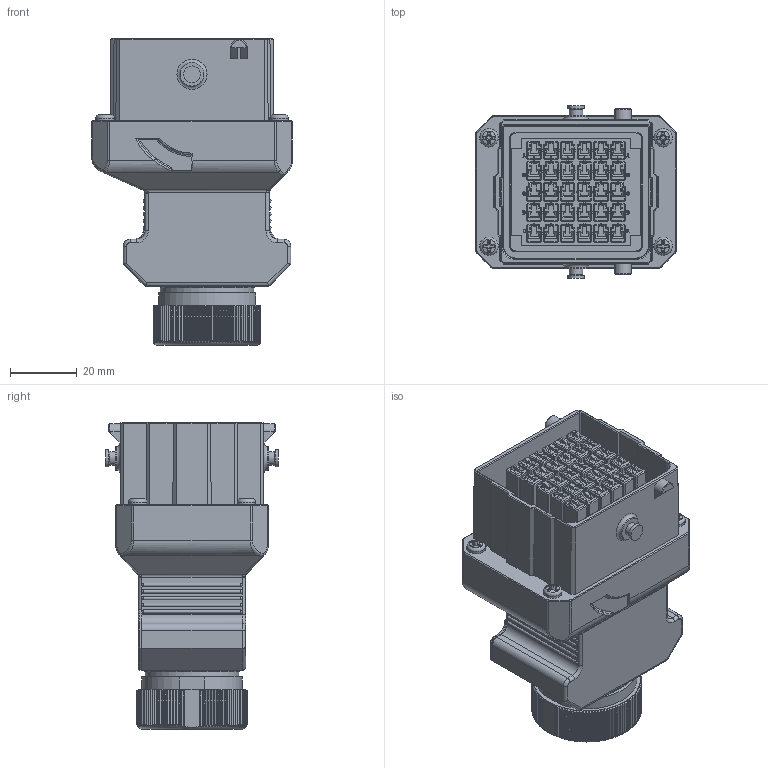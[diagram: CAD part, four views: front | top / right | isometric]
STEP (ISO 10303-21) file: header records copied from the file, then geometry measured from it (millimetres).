
FILE_DESCRIPTION (( 'STEP AP203' ), '1' );
FILE_NAME ('DK-3CR30ERC-S(R1).STEP', '2023-03-16T06:58:45', ( '' ), ( '' ), 'SwSTEP 2.0', 'SolidWorks 2018', '' );
FILE_SCHEMA (( 'CONFIG_CONTROL_DESIGN' ));
Products named in the file (1): DK-3CR30ERC-S(R1)
Bounding box: 60 x 51.6 x 91.7 mm (x, y, z)
Volume: 79743.3 mm3; surface area: 47002.5 mm2
Topology: 1 solids, 1 shells, 4346 faces, 11793 edges, 7574 vertices
Faces by surface type: plane 3034, cylinder 666, bspline 532, cone 43, sphere 37, torus 34
Full cylindrical faces by diameter (mm): 2.5 x2, 4 x2, 4.5 x2, 5 x4, 5.5 x4, 7 x2, 23 x2, 24.2 x1, 28 x1
Entity records: 154068 total; most frequent: CARTESIAN_POINT 50624, ORIENTED_EDGE 23396, DIRECTION 18002, EDGE_CURVE 11698, VECTOR 8616, LINE 8616, VERTEX_POINT 7561, AXIS2_PLACEMENT_3D 4693
